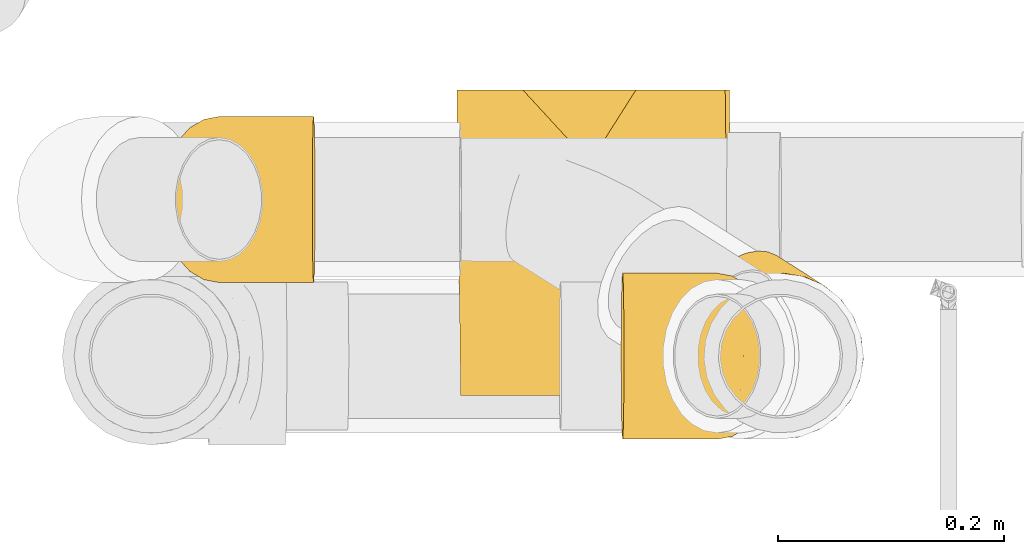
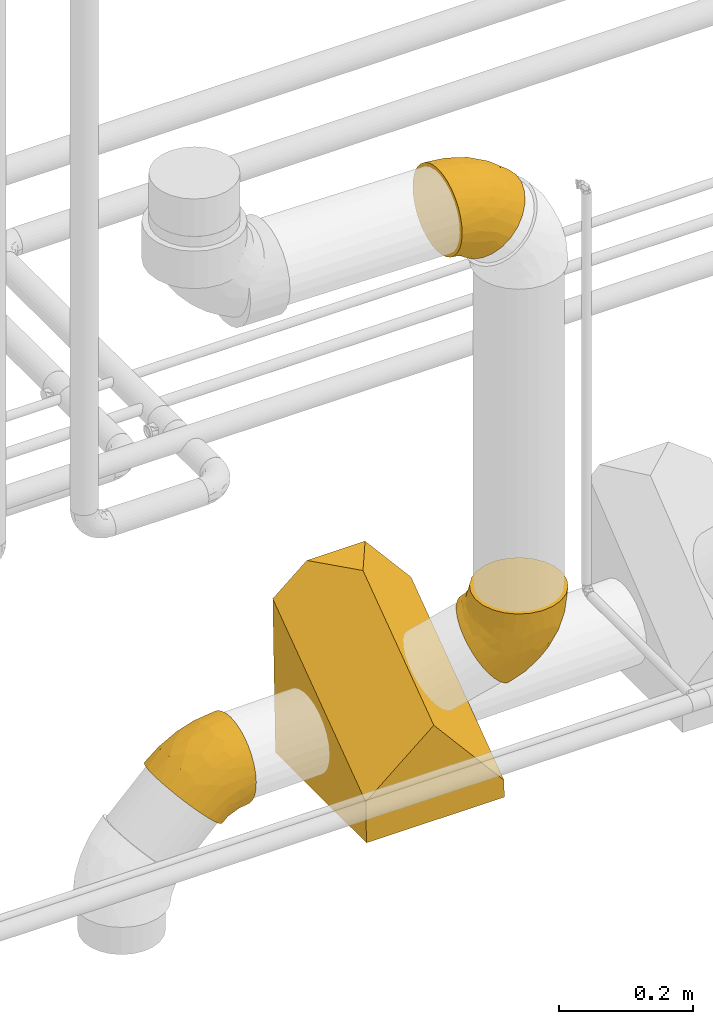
# One storey, part 16 of 156: 4 coverings.
"""IFC2X3 building model written with IfcOpenShell, lengths in millimetres."""

from ifc_helpers import new_model, entity, si_unit, converted_unit, derived_unit, direction, frame, origin_with_axes, place, context, subcontext, project, spatial, open_shell, surface_model, source, transform, mapped, element, save


model = new_model("IFC2X3")

# Units and contexts
model_context = context("Model", 3, precision=0.01, world=frame((0.0, 4.29681676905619e-09, 0.0)), true_north=direction((4.01073788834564e-13, 1.0)))
plan_context = context("Plan", 3, precision=0.01, world=frame((0.0, 4.29681676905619e-09, 0.0)), true_north=direction((4.01073788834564e-13, 1.0)))
body_context = subcontext(model_context, "Body", "Model", "MODEL_VIEW")
ifc_project = project(units=[converted_unit("PLANEANGLEUNIT", "DEGREE", entity("IfcPositiveLengthMeasure", 0.0174532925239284), si_unit("PLANEANGLEUNIT", "RADIAN"), dimensions=[0, 0, 0, 0, 0, 0, 0]), si_unit("AREAUNIT", "SQUARE_METRE"), si_unit("LENGTHUNIT", "METRE", prefix="MILLI"), si_unit("MASSUNIT", "GRAM", prefix="KILO"), si_unit("POWERUNIT", "WATT"), si_unit("PRESSUREUNIT", "PASCAL", prefix="KILO"), si_unit("FORCEUNIT", "NEWTON", prefix="KILO"), si_unit("ELECTRICVOLTAGEUNIT", "VOLT"), si_unit("ELECTRICCURRENTUNIT", "AMPERE"), si_unit("THERMODYNAMICTEMPERATUREUNIT", "DEGREE_CELSIUS"), si_unit("TIMEUNIT", "SECOND"), si_unit("VOLUMEUNIT", "CUBIC_METRE"), derived_unit("LINEARVELOCITYUNIT", [(si_unit("LENGTHUNIT", "METRE"), 1), (si_unit("TIMEUNIT", "SECOND"), -1)]), derived_unit("VOLUMETRICFLOWRATEUNIT", [(si_unit("VOLUMEUNIT", "CUBIC_METRE"), 1), (si_unit("TIMEUNIT", "SECOND"), -1)]), derived_unit("THERMALTRANSMITTANCEUNIT", [(si_unit("POWERUNIT", "WATT"), 1), (si_unit("THERMODYNAMICTEMPERATUREUNIT", "KELVIN"), -1), (si_unit("AREAUNIT", "SQUARE_METRE"), -1)]), derived_unit("SOUNDPRESSUREUNIT", [(si_unit("PRESSUREUNIT", "PASCAL"), 1)])], contexts=[model_context, plan_context])

# Site, building, storey
site_placement = place(None, frame((0.0, -4.29681676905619e-09, 0.0), z_axis=(0.0, 0.0, 1.0), x_axis=(1.0, 0.0, 0.0)))
site = spatial("IfcSite", under=ifc_project, at=site_placement, CompositionType="ELEMENT")
building_placement = place(site_placement, frame((0.0, 4.29681676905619e-09, 0.0), z_axis=(0.0, 0.0, 1.0), x_axis=(1.0, 0.0, 0.0)))
building = spatial("IfcBuilding", under=site, at=building_placement, Name="mc-building", CompositionType="ELEMENT")
storey_placement = place(building_placement, frame((0.0, 0.0, 205200.0), z_axis=(0.0, 0.0, 1.0), x_axis=(1.0, 0.0, 0.0)))
storey = spatial("IfcBuildingStorey", under=building, at=storey_placement, Name="Nivå D + 1,2 m", CompositionType="ELEMENT", Elevation=205200.0)

# Coverings
shared_shape_1 = source(origin_with_axes(), body_context, "Body", "SurfaceModel", [
    surface_model("IfcShellBasedSurfaceModel", [(77.67136, -9.90601, 40.82479), (63.57376, 4.66947, 61.10815), (71.31719, -3.33645, 51.96498), (77.66351, -9.89789, -40.8417), (71.30695, -3.32586, -51.97971), (63.56201, 4.68162, -61.11944), (86.27864, -18.80506, 0.0), (85.29628, -17.78941, -14.34271), (82.38721, -14.78172, -28.13327), (-48.94265, 70.99555, -19.0232), (-48.94265, 63.65287, 36.75), (-48.94265, 73.5, 0.0), (-48.94265, 51.97235, -51.97235), (-48.94265, 63.65287, -36.75), (-48.94265, 36.75, -63.65287), (-48.94265, 19.0232, 70.99555), (-48.94265, 19.0232, -70.99555), (-48.94265, 51.97235, 51.97235), (-48.94265, 70.99555, 19.0232), (-48.94265, 36.75, 63.65287), (-48.94265, 0.0, 73.5), (-48.94265, 0.0, -73.5), (-48.94265, -19.0232, -70.99555), (-48.94265, -36.75, -63.65287), (-48.94265, -73.5, 0.0), (-48.94265, -63.65287, -36.75), (-48.94265, -51.97235, -51.97235), (-48.94265, -70.99555, -19.0232), (-48.94265, -36.75, 63.65287), (-48.94265, -19.0232, 70.99555), (-48.94265, -51.97235, 51.97235), (-48.94265, -63.65287, 36.75), (-48.94265, -70.99555, 19.0232), (54.73855, 13.80419, 67.90265), (45.151, 23.71673, 72.08701), (4.70339, -11.62811, 70.10924), (-11.79268, -69.91917, 0.0), (5.49729, -63.67267, 16.90402), (23.98939, -59.30853, 0.0), (51.8517, -41.92744, 20.49374), (30.21048, -15.2409, 63.75919), (-11.2399, -55.17777, 43.60654), (-14.51415, -63.91313, 30.01768), (-7.97177, -31.06005, 63.80632), (21.91668, -51.8428, 32.74298), (18.24826, -45.94476, 43.88746), (16.17402, -36.00127, 54.81106), (-17.94012, -44.84126, 55.90712), (-18.27528, 3.95081, 73.5), (51.44489, -36.00841, 33.62416), (57.08605, -42.05878, 0.0), (85.29851, -17.7917, 14.32665), (45.36569, -18.91098, 55.89531), (45.06717, -31.0472, 45.44987), (10.38942, 15.54525, 73.5), (35.17959, 34.02616, 73.5), (82.39223, -14.78691, 28.11586), (-40.03707, 75.23289, 0.0), (-28.51806, 16.12231, 72.12469), (-0.94777, 71.37818, 51.97971), (-15.87647, 65.98218, 46.63532), (-7.58177, 59.02662, 56.92743), (-2.00146, 33.0691, 70.33875), (-27.08612, 30.7357, 67.90515), (-21.05326, 52.04599, 56.82324), (-35.94649, 45.85958, 58.31147), (-35.39677, 73.1543, 17.95287), (-22.84292, 77.57323, 21.34079), (-27.5856, 69.03523, 34.6544), (-36.04096, 59.65346, 44.74396), (-38.56147, 67.11684, 32.08756), (-14.93711, 85.84173, 14.34271), (-23.52547, 81.91158, 0.0), (-7.30433, 77.95021, 40.8417), (-17.58859, 74.38043, 34.6544), (6.79717, 63.3707, 61.11944), (-9.10568, 45.30053, 64.38139), (15.63274, 54.23562, 67.90986), (25.21934, 44.32404, 72.0902), (-12.02803, 82.83404, 28.13327), (-31.13148, 76.96578, 0.0), (-15.91946, 86.85738, 0.0), (-38.56264, 67.1147, -32.09143), (-27.58977, 69.0435, -34.63712), (-36.03446, 59.65483, -44.74397), (-35.38819, 73.1593, -17.94305), (-14.93933, 85.84402, -14.32665), (-22.84535, 77.57773, -21.32394), (-17.59418, 74.3878, -34.63713), (-9.11017, 45.31749, -64.37197), (-21.05673, 52.06175, -56.81019), (-7.58965, 59.04174, -56.91358), (-18.27528, 3.95081, -73.5), (-27.10297, 30.73162, -67.90515), (-35.94319, 45.86015, -58.31147), (-15.88314, 65.99341, -46.61941), (-12.03305, 82.83923, -28.11586), (-2.03304, 33.07136, -70.33364), (15.62063, 54.24813, -67.90265), (-7.31218, 77.95833, -40.82479), (-0.95801, 71.38877, -51.96498), (6.78541, 63.38285, -61.10815), (-16.70406, 19.54901, -72.04548), (25.20818, 44.33559, -72.08701), (35.17959, 34.02616, -73.5), (10.38942, 15.54525, -73.5), (45.35403, -18.90037, -55.90839), (-7.94621, -31.04339, -63.81171), (30.19869, -15.22856, -63.7687), (16.16178, -35.99047, -54.82417), (45.13984, 23.72827, -72.0902), (54.72644, 13.81671, -67.90986), (4.70339, -11.62811, -70.10924), (-17.95677, -44.83118, -55.91817), (21.91538, -51.83425, -32.75989), (-14.52029, -63.91271, -30.0211), (-11.25725, -55.18108, -43.60708), (51.84878, -41.92361, -20.51024), (5.49642, -63.67062, -16.91336), (45.05793, -31.03832, -45.46564), (17.49431, -45.0956, -45.288), (56.91846, -32.31182, -33.71897)], [open_shell([[[0, 1, 2]], [[3, 4, 5]], [[6, 7, 8]], [[9, 10, 11]], [[12, 9, 13]], [[10, 12, 14]], [[9, 12, 10]], [[15, 14, 16]], [[10, 15, 17]], [[10, 18, 11]], [[17, 15, 19]], [[14, 15, 10]], [[16, 20, 15]], [[16, 21, 20]], [[21, 22, 23]], [[24, 21, 23]], [[24, 23, 25]], [[25, 23, 26]], [[24, 25, 27]], [[20, 28, 29]], [[30, 28, 20]], [[31, 24, 32]], [[24, 31, 30]], [[21, 24, 30]], [[30, 20, 21]], [[33, 34, 35]], [[32, 24, 36]], [[37, 36, 38]], [[38, 39, 37]], [[1, 33, 40]], [[41, 31, 42]], [[29, 28, 43]], [[39, 44, 37]], [[45, 46, 41]], [[46, 43, 47]], [[29, 48, 20]], [[48, 29, 35]], [[31, 41, 30]], [[33, 35, 40]], [[40, 43, 46]], [[49, 44, 39]], [[38, 50, 39]], [[50, 51, 39]], [[52, 2, 1]], [[49, 53, 45]], [[49, 0, 53]], [[51, 50, 6]], [[47, 41, 46]], [[45, 41, 44]], [[52, 53, 2]], [[53, 52, 46]], [[54, 34, 55]], [[35, 54, 48]], [[44, 41, 42]], [[32, 37, 42]], [[34, 54, 35]], [[52, 40, 46]], [[47, 28, 30]], [[29, 43, 35]], [[0, 2, 53]], [[32, 36, 37]], [[40, 52, 1]], [[39, 51, 56]], [[32, 42, 31]], [[43, 40, 35]], [[44, 42, 37]], [[28, 47, 43]], [[41, 47, 30]], [[39, 56, 49]], [[0, 49, 56]], [[49, 45, 44]], [[46, 45, 53]], [[57, 11, 18]], [[20, 48, 58]], [[59, 60, 61]], [[62, 63, 58]], [[61, 60, 64]], [[63, 64, 65]], [[57, 18, 66]], [[58, 63, 15]], [[67, 66, 68]], [[10, 17, 69]], [[69, 68, 70]], [[10, 69, 70]], [[71, 72, 67]], [[70, 18, 10]], [[48, 54, 62]], [[68, 66, 70]], [[73, 74, 60]], [[75, 76, 77]], [[78, 77, 62]], [[78, 54, 55]], [[69, 60, 68]], [[76, 75, 61]], [[60, 74, 68]], [[19, 15, 63]], [[73, 79, 74]], [[17, 19, 65]], [[80, 66, 67]], [[66, 80, 57]], [[67, 74, 79]], [[68, 74, 67]], [[79, 71, 67]], [[59, 73, 60]], [[65, 69, 17]], [[62, 54, 78]], [[60, 69, 64]], [[63, 62, 76]], [[18, 70, 66]], [[63, 65, 19]], [[69, 65, 64]], [[76, 61, 64]], [[59, 61, 75]], [[63, 76, 64]], [[77, 76, 62]], [[72, 71, 81]], [[72, 80, 67]], [[20, 58, 15]], [[62, 58, 48]], [[82, 83, 84]], [[9, 57, 85]], [[12, 13, 84]], [[72, 81, 86]], [[87, 88, 83]], [[89, 90, 91]], [[21, 16, 92]], [[93, 14, 94]], [[89, 93, 90]], [[9, 85, 82]], [[94, 14, 12]], [[16, 14, 93]], [[84, 95, 90]], [[85, 87, 83]], [[86, 96, 87]], [[84, 94, 12]], [[90, 95, 91]], [[97, 89, 98]], [[88, 87, 96]], [[88, 96, 99]], [[99, 100, 95]], [[82, 84, 13]], [[95, 83, 88]], [[91, 100, 101]], [[93, 102, 16]], [[98, 103, 97]], [[103, 104, 105]], [[85, 80, 87]], [[95, 88, 99]], [[105, 97, 103]], [[102, 105, 92]], [[105, 102, 97]], [[95, 84, 83]], [[86, 87, 72]], [[94, 84, 90]], [[102, 93, 97]], [[93, 94, 90]], [[9, 82, 13]], [[85, 83, 82]], [[100, 91, 95]], [[101, 98, 89]], [[89, 91, 101]], [[93, 89, 97]], [[87, 80, 72]], [[57, 9, 11]], [[57, 80, 85]], [[16, 102, 92]], [[5, 4, 106]], [[22, 107, 23]], [[22, 21, 92]], [[108, 106, 109]], [[110, 111, 112]], [[107, 112, 108]], [[113, 107, 109]], [[112, 107, 22]], [[24, 27, 36]], [[114, 115, 116]], [[114, 117, 118]], [[38, 36, 118]], [[116, 25, 26]], [[116, 115, 25]], [[119, 120, 109]], [[113, 23, 107]], [[112, 92, 105]], [[113, 116, 26]], [[105, 104, 110]], [[114, 118, 115]], [[5, 106, 108]], [[36, 27, 118]], [[112, 111, 108]], [[112, 22, 92]], [[115, 27, 25]], [[4, 3, 119]], [[117, 121, 8]], [[109, 106, 119]], [[120, 114, 116]], [[38, 118, 117]], [[7, 6, 50]], [[38, 117, 50]], [[7, 50, 117]], [[114, 119, 121]], [[3, 8, 121]], [[7, 117, 8]], [[107, 108, 109]], [[112, 105, 110]], [[119, 106, 4]], [[108, 111, 5]], [[27, 115, 118]], [[113, 109, 120]], [[23, 113, 26]], [[114, 121, 117]], [[3, 121, 119]], [[114, 120, 119]], [[113, 120, 116]], [[59, 75, 77]], [[55, 34, 33]], [[0, 33, 1]], [[56, 51, 0]], [[71, 86, 81]], [[59, 79, 73]], [[100, 99, 96]], [[86, 71, 96]], [[33, 0, 78]], [[78, 55, 33]], [[71, 79, 59]], [[78, 71, 77]], [[71, 59, 77]], [[71, 8, 96]], [[100, 96, 103]], [[101, 100, 98]], [[98, 100, 103]], [[96, 8, 103]], [[110, 104, 103]], [[0, 71, 78]], [[71, 0, 8]], [[8, 0, 51]], [[3, 5, 111]], [[8, 111, 110]], [[3, 111, 8]], [[103, 8, 110]], [[51, 6, 8]]])]),
])
covering_1_placement = place(storey_placement, frame((324556.72338, 462724.75736, 4161.58312), z_axis=(0.0, 1.0, 0.0), x_axis=(0.707106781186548, 0.0, 0.707106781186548)))
element("IfcCovering", 1, at=covering_1_placement, inside=storey, Name="BI17T - Cellegummi 13 mm SPV fett", PredefinedType="INSULATION", context=body_context, shape_type="MappedRepresentation", body=[
    mapped(shared_shape_1, transform((0.0, 0.0, 0.0), scale=1.0)),
])
shared_shape_2 = source(origin_with_axes(), body_context, "Body", "SurfaceModel", [
    surface_model("IfcShellBasedSurfaceModel", [(-18.97013, 90.05107, 28.13327), (-13.44916, 86.09075, 40.8417), (-22.37019, 92.49001, 14.34271), (-22.37279, 92.49187, -14.32665), (-23.51834, 93.31361, 0.0), (24.55077, 58.83251, -72.08701), (13.3592, 66.86049, 67.90986), (24.56381, 58.82315, 72.0902), (3.03237, 74.26816, 61.11944), (-6.01975, 80.76146, 51.97971), (91.38627, 10.88984, 28.11586), (-6.03172, 80.77004, -51.96498), (-18.97599, 90.05527, -28.11586), (3.01863, 74.27802, -61.10815), (-13.45834, 86.09733, -40.82479), (13.34505, 66.87064, -67.90265), (47.84648, 42.12196, -72.0902), (36.20514, 50.47256, -73.5), (36.20514, 50.47256, 73.5), (47.85952, 42.1126, 72.08701), (59.06524, 34.07448, 67.90265), (69.39166, 26.6671, 61.10815), (85.86863, 14.84778, 40.82479), (78.44201, 20.17507, 51.96498), (94.78308, 8.45324, 14.32665), (85.85945, 14.85436, -40.8417), (78.43004, 20.18365, -51.97971), (69.37791, 26.67695, -61.11944), (59.05109, 34.08463, -67.90986), (95.92863, 7.63151, 0.0), (94.78048, 8.4551, -14.34271), (91.38041, 10.89404, -28.13327), (-62.11514, 70.99555, -19.0232), (-62.11514, 63.65287, 36.75), (-62.11514, 73.5, 0.0), (-62.11514, 51.97235, -51.97235), (-62.11514, 63.65287, -36.75), (-62.11514, 36.75, -63.65287), (-62.11514, 19.0232, 70.99555), (-62.11514, 19.0232, -70.99555), (-62.11514, 51.97235, 51.97235), (-62.11514, 70.99555, 19.0232), (-62.11514, 36.75, 63.65287), (-62.11514, 0.0, 73.5), (-62.11514, 0.0, -73.5), (-62.11514, -19.0232, -70.99555), (-62.11514, -36.75, -63.65287), (-62.11514, -73.5, 0.0), (-62.11514, -63.65287, -36.75), (-62.11514, -51.97235, -51.97235), (-62.11514, -70.99555, -19.0232), (-62.11514, -36.75, 63.65287), (-62.11514, -19.0232, 70.99555), (-62.11514, -51.97235, 51.97235), (-62.11514, -63.65287, 36.75), (-62.11514, -70.99555, 19.0232), (57.35817, -22.38087, 33.08374), (45.81664, -38.55867, 16.45229), (72.49251, -15.34171, 20.46285), (-16.42353, -68.05694, 0.0), (-17.60983, -66.98161, 13.87659), (13.64552, -56.56612, 14.5133), (26.71074, -52.0324, 0.0), (20.24028, -39.43327, 43.37547), (-17.26043, -40.79538, 56.59365), (-23.40306, -55.18365, 43.30692), (33.21154, 11.87651, 69.50674), (9.4018, 23.3971, 73.5), (48.15442, -20.09883, 45.04901), (27.65835, -44.48904, 29.61227), (-31.39218, -10.41085, 72.16316), (2.05693, -4.00689, 70.86164), (-24.49169, 5.99793, 73.5), (-24.31157, -25.97061, 66.75629), (19.47491, -16.21517, 62.52358), (22.85535, -27.44805, 53.8296), (49.25648, -6.63683, 55.31849), (64.87345, -26.32327, 0.0), (46.19544, 6.46354, 63.71732), (-9.04405, -60.95189, 26.55897), (-19.95255, 72.5991, 46.63532), (-28.14736, 54.82853, 56.82324), (-9.37497, 57.54022, 62.61892), (-35.45023, 17.65965, 72.10046), (-0.32138, 42.78972, 70.33875), (-17.84212, 42.89161, 66.54142), (-15.94289, 26.93565, 71.68917), (-30.46274, 65.16706, 46.62449), (-32.3219, 73.36783, 34.6544), (-45.46035, 46.58494, 58.31147), (-33.74609, 32.56614, 67.90515), (-36.06644, 77.12659, 22.48464), (-28.83541, 82.79608, 21.34079), (-44.5059, 73.97067, 19.80285), (-40.42245, 78.74273, 0.0), (-51.03369, 76.17819, 0.0), (-45.12495, 60.65777, 44.74396), (-32.1536, 85.87025, 0.0), (-52.85593, 68.71874, 28.12723), (-42.61126, 68.96783, 33.47894), (-53.28866, 72.80641, 14.74984), (-22.99585, 80.67477, 34.65411), (-30.46791, 65.17879, -46.60895), (-19.96055, 72.60944, -46.61941), (-28.15269, 54.84369, -56.81019), (-44.50668, 73.97276, -19.79488), (-36.88222, 79.1987, -13.90211), (-52.85395, 68.71909, -28.12723), (-42.6027, 68.97089, -33.4792), (-45.13237, 60.65568, -44.74397), (-53.2897, 72.80578, -14.75195), (-0.34887, 42.78948, -70.33364), (-16.95921, 36.81276, -68.94695), (-11.39457, 54.20459, -63.43205), (-33.0141, 18.34632, -72.09527), (-32.32612, 73.37609, -34.63712), (-33.72981, 32.57136, -67.90515), (-12.49765, 24.34535, -72.45437), (-45.45774, 46.58552, -58.31147), (9.4018, 23.3971, -73.5), (-23.00143, 80.68188, -34.6373), (-10.37814, 67.78461, -56.69103), (-28.83819, 82.80044, -21.32394), (-24.49169, 5.99793, -73.5), (-21.65506, -54.84048, -43.23998), (-7.26612, -60.44591, -26.50444), (15.50505, 11.00324, -72.2259), (36.5775, 15.45374, -69.64194), (12.11355, -5.91181, -68.73806), (-15.34026, -7.06926, -71.88059), (43.43753, -33.26307, -32.5119), (35.95766, -44.73049, -16.71427), (-23.12537, -26.72572, -66.27215), (35.26471, -3.03728, -63.68391), (-26.87725, -68.766, -14.72466), (13.64397, -45.40896, -39.72094), (-24.60707, -42.69237, -56.56314), (16.07779, -31.32476, -53.66566), (49.50045, -6.38237, -55.34557), (6.15162, -59.79076, -13.49644), (68.03054, -19.64037, -20.3787), (40.90076, -25.07121, -45.47517), (70.0198, -10.48976, -33.52017), (7.33348, -22.41268, -62.70595), (65.34056, -4.16536, -45.60898)], [open_shell([[[0, 1, 2]], [[2, 3, 4]], [[5, 2, 1]], [[6, 7, 8]], [[8, 7, 1]], [[1, 9, 8]], [[5, 1, 10]], [[11, 12, 13]], [[11, 14, 12]], [[3, 2, 12]], [[15, 13, 5]], [[13, 12, 2]], [[13, 2, 5]], [[5, 16, 17]], [[1, 7, 18]], [[18, 19, 20]], [[20, 21, 18]], [[18, 21, 22]], [[10, 1, 22]], [[16, 5, 10]], [[21, 23, 22]], [[16, 10, 24]], [[25, 26, 27]], [[28, 16, 27]], [[29, 27, 16]], [[29, 30, 31]], [[31, 25, 29]], [[29, 25, 27]], [[16, 24, 29]], [[1, 18, 22]], [[32, 33, 34]], [[35, 32, 36]], [[33, 35, 37]], [[32, 35, 33]], [[38, 37, 39]], [[33, 38, 40]], [[33, 41, 34]], [[40, 38, 42]], [[37, 38, 33]], [[39, 43, 38]], [[39, 44, 43]], [[44, 45, 46]], [[47, 44, 46]], [[47, 46, 48]], [[48, 46, 49]], [[47, 48, 50]], [[43, 51, 52]], [[53, 51, 43]], [[54, 47, 55]], [[47, 54, 53]], [[44, 47, 53]], [[53, 43, 44]], [[56, 57, 58]], [[47, 59, 60]], [[61, 62, 57]], [[63, 64, 65]], [[66, 19, 67]], [[22, 23, 68]], [[69, 57, 56]], [[70, 71, 72]], [[59, 61, 60]], [[73, 74, 71]], [[70, 43, 52]], [[73, 52, 51]], [[64, 51, 53]], [[74, 75, 76]], [[73, 71, 70]], [[61, 59, 62]], [[77, 57, 62]], [[66, 20, 19]], [[66, 78, 20]], [[68, 23, 76]], [[10, 56, 58]], [[24, 77, 29]], [[63, 65, 79]], [[54, 79, 65]], [[64, 53, 65]], [[56, 63, 69]], [[67, 19, 18]], [[66, 67, 71]], [[65, 53, 54]], [[55, 79, 54]], [[67, 72, 71]], [[76, 23, 21]], [[78, 74, 76]], [[71, 74, 66]], [[76, 21, 78]], [[75, 64, 63]], [[58, 77, 24]], [[22, 56, 10]], [[51, 64, 73]], [[56, 68, 63]], [[74, 73, 64]], [[63, 79, 69]], [[61, 69, 79]], [[69, 61, 57]], [[61, 79, 60]], [[79, 55, 60]], [[47, 60, 55]], [[20, 78, 21]], [[74, 78, 66]], [[64, 75, 74]], [[68, 75, 63]], [[77, 58, 57]], [[10, 58, 24]], [[43, 70, 72]], [[73, 70, 52]], [[22, 68, 56]], [[75, 68, 76]], [[80, 81, 82]], [[43, 72, 83]], [[9, 80, 82]], [[84, 85, 86]], [[87, 80, 88]], [[89, 90, 81]], [[91, 88, 92]], [[93, 94, 95]], [[96, 33, 40]], [[2, 4, 97]], [[40, 89, 96]], [[98, 99, 93]], [[41, 98, 100]], [[2, 97, 92]], [[84, 86, 67]], [[90, 89, 42]], [[0, 101, 1]], [[82, 84, 6]], [[7, 6, 84]], [[7, 67, 18]], [[82, 85, 84]], [[38, 90, 42]], [[80, 87, 81]], [[82, 6, 8]], [[101, 0, 92]], [[40, 42, 89]], [[93, 91, 94]], [[80, 101, 88]], [[91, 97, 94]], [[86, 83, 72]], [[0, 2, 92]], [[9, 1, 80]], [[34, 41, 100]], [[84, 67, 7]], [[98, 41, 33]], [[98, 96, 99]], [[96, 89, 81]], [[96, 98, 33]], [[100, 98, 93]], [[87, 99, 96]], [[91, 99, 88]], [[93, 95, 100]], [[34, 100, 95]], [[88, 101, 92]], [[1, 101, 80]], [[99, 87, 88]], [[96, 81, 87]], [[82, 8, 9]], [[85, 81, 90]], [[81, 85, 82]], [[86, 85, 90]], [[83, 86, 90]], [[67, 86, 72]], [[90, 38, 83]], [[43, 83, 38]], [[91, 92, 97]], [[99, 91, 93]], [[102, 103, 104]], [[105, 94, 106]], [[107, 108, 109]], [[34, 95, 110]], [[36, 32, 107]], [[111, 112, 113]], [[39, 114, 44]], [[103, 102, 115]], [[39, 37, 116]], [[111, 117, 112]], [[118, 37, 35]], [[37, 118, 116]], [[97, 4, 3]], [[117, 111, 119]], [[14, 103, 120]], [[109, 118, 35]], [[11, 121, 103]], [[15, 111, 113]], [[106, 97, 122]], [[14, 11, 103]], [[104, 118, 109]], [[35, 36, 109]], [[120, 115, 122]], [[12, 14, 120]], [[112, 114, 116]], [[111, 15, 5]], [[5, 17, 119]], [[121, 13, 113]], [[97, 3, 122]], [[119, 111, 5]], [[117, 119, 123]], [[115, 105, 106]], [[36, 107, 109]], [[122, 3, 12]], [[110, 105, 107]], [[95, 94, 105]], [[116, 118, 104]], [[110, 107, 32]], [[107, 105, 108]], [[105, 115, 108]], [[102, 108, 115]], [[34, 110, 32]], [[95, 105, 110]], [[115, 120, 103]], [[12, 120, 122]], [[104, 109, 102]], [[108, 102, 109]], [[114, 117, 123]], [[117, 114, 112]], [[44, 114, 123]], [[39, 116, 114]], [[116, 104, 112]], [[113, 112, 104]], [[121, 104, 103]], [[15, 113, 13]], [[13, 121, 11]], [[104, 121, 113]], [[97, 106, 94]], [[115, 106, 122]], [[48, 124, 125]], [[126, 127, 128]], [[44, 123, 129]], [[125, 130, 131]], [[46, 45, 132]], [[123, 126, 129]], [[28, 27, 133]], [[132, 45, 129]], [[50, 134, 47]], [[126, 128, 129]], [[50, 125, 134]], [[125, 124, 135]], [[136, 46, 132]], [[125, 50, 48]], [[137, 133, 138]], [[139, 134, 125]], [[127, 126, 16]], [[133, 127, 28]], [[17, 16, 126]], [[31, 30, 140]], [[128, 127, 133]], [[136, 124, 49]], [[131, 77, 62]], [[127, 16, 28]], [[137, 141, 135]], [[27, 26, 138]], [[138, 141, 137]], [[140, 142, 31]], [[132, 128, 143]], [[131, 140, 77]], [[30, 29, 77]], [[130, 140, 131]], [[48, 49, 124]], [[141, 142, 130]], [[26, 25, 144]], [[141, 144, 142]], [[30, 77, 140]], [[138, 133, 27]], [[139, 59, 134]], [[119, 126, 123]], [[126, 119, 17]], [[129, 128, 132]], [[44, 129, 45]], [[143, 128, 133]], [[136, 137, 124]], [[133, 137, 143]], [[136, 143, 137]], [[46, 136, 49]], [[143, 136, 132]], [[138, 26, 144]], [[135, 141, 130]], [[125, 135, 130]], [[137, 135, 124]], [[31, 142, 25]], [[138, 144, 141]], [[130, 142, 140]], [[25, 142, 144]], [[139, 125, 131]], [[47, 134, 59]], [[131, 62, 139]], [[59, 139, 62]]])]),
])
covering_2_placement = place(storey_placement, frame((325018.86668, 462586.08797, 4351.56729000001), z_axis=(0.534985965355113, 0.844860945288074, 0.0), x_axis=(0.0, 0.0, -1.0)))
element("IfcCovering", 2, at=covering_2_placement, inside=storey, Name="BI17T - Cellegummi 13 mm SPV fett", PredefinedType="INSULATION", context=body_context, shape_type="MappedRepresentation", body=[
    mapped(shared_shape_2, transform((0.0, 0.0, 0.0), scale=1.0)),
])
shared_shape_3 = source(origin_with_axes(), body_context, "Body", "SurfaceModel", [
    surface_model("IfcShellBasedSurfaceModel", [(-64.4858, -86.88465, 188.09183), (-64.4858, -86.88465, -152.04002), (54.06027, -163.39764, -93.8253), (54.06027, -163.39764, 165.24796), (-5.24081, -125.12304, 217.18542), (172.34261, -48.7073, 159.04469), (94.90349, -123.79473, 216.17478), (172.34261, -48.7073, -181.08717), (172.34261, 139.80357, 15.61665), (172.34261, -24.10187, -199.80815), (-64.4858, 136.66229, 18.00669), (-64.4858, -27.24315, -197.41811)], [open_shell([[[0, 1, 2]], [[0, 3, 4]], [[3, 0, 2]], [[3, 2, 5]], [[3, 5, 6]], [[5, 2, 7]], [[5, 7, 8]], [[9, 8, 7]], [[6, 0, 4]], [[0, 6, 5]], [[5, 8, 10]], [[5, 10, 0]], [[4, 3, 6]], [[2, 1, 7]], [[7, 11, 9]], [[11, 7, 1]], [[8, 9, 11]], [[11, 10, 8]], [[1, 0, 10]], [[10, 11, 1]]])]),
])
covering_3_placement = place(storey_placement, frame((324799.87709, 462724.75736, 4165.63569), z_axis=(-0.0100899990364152, 0.795836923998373, 0.605426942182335), x_axis=(0.999861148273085, -1.89439439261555e-07, 0.0166638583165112)))
element("IfcCovering", 3, at=covering_3_placement, inside=storey, Name="BI17T - Cellegummi 13 mm SPV fett", PredefinedType="INSULATION", context=body_context, shape_type="MappedRepresentation", body=[
    mapped(shared_shape_3, transform((0.0, 0.0, 0.0), scale=1.0)),
])
shared_shape_4 = source(origin_with_axes(), body_context, "Body", "SurfaceModel", [
    surface_model("IfcShellBasedSurfaceModel", [(15.63274, 54.23562, 67.90986), (25.21934, 44.32404, 72.0902), (6.79717, 63.3707, 61.11944), (63.57376, 4.66947, 61.10815), (77.67136, -9.90601, 40.82479), (71.31719, -3.33645, 51.96498), (35.17959, 34.02616, 73.5), (-48.94265, 70.99555, -19.0232), (-48.94265, 63.65287, 36.75), (-48.94265, 73.5, 0.0), (-48.94265, 51.97235, -51.97235), (-48.94265, 63.65287, -36.75), (-48.94265, 36.75, -63.65287), (-48.94265, 19.0232, 70.99555), (-48.94265, 19.0232, -70.99555), (-48.94265, 51.97235, 51.97235), (-48.94265, 70.99555, 19.0232), (-48.94265, 36.75, 63.65287), (-48.94265, 0.0, 73.5), (-48.94265, 0.0, -73.5), (-48.94265, -19.0232, -70.99555), (-48.94265, -36.75, -63.65287), (-48.94265, -73.5, 0.0), (-48.94265, -63.65287, -36.75), (-48.94265, -51.97235, -51.97235), (-48.94265, -70.99555, -19.0232), (-48.94265, -36.75, 63.65287), (-48.94265, -19.0232, 70.99555), (-48.94265, -51.97235, 51.97235), (-48.94265, -63.65287, 36.75), (-48.94265, -70.99555, 19.0232), (54.73855, 13.80419, 67.90265), (45.151, 23.71673, 72.08701), (4.70339, -11.62811, 70.10924), (-11.79268, -69.91917, 0.0), (5.49729, -63.67267, 16.90402), (23.98939, -59.30853, 0.0), (51.8517, -41.92744, 20.49374), (30.21048, -15.2409, 63.75919), (-11.2399, -55.17777, 43.60654), (-14.51415, -63.91313, 30.01768), (-7.97177, -31.06005, 63.80632), (21.91668, -51.8428, 32.74298), (18.24826, -45.94476, 43.88746), (16.17402, -36.00127, 54.81106), (-17.94012, -44.84126, 55.90712), (-18.27528, 3.95081, 73.5), (51.44489, -36.00841, 33.62416), (57.08605, -42.05878, 0.0), (85.29851, -17.7917, 14.32665), (45.36569, -18.91098, 55.89531), (45.06717, -31.0472, 45.44987), (86.27864, -18.80506, 0.0), (10.38942, 15.54525, 73.5), (82.39223, -14.78691, 28.11586), (-40.03707, 75.23289, 0.0), (-28.51806, 16.12231, 72.12469), (-0.94777, 71.37818, 51.97971), (-15.87647, 65.98218, 46.63532), (-7.58177, 59.02662, 56.92743), (-2.00146, 33.0691, 70.33875), (-27.08612, 30.7357, 67.90515), (-21.05326, 52.04599, 56.82324), (-35.94649, 45.85958, 58.31147), (-35.39677, 73.1543, 17.95287), (-22.84292, 77.57323, 21.34079), (-27.5856, 69.03523, 34.6544), (-36.04096, 59.65346, 44.74396), (-38.56147, 67.11684, 32.08756), (-14.93711, 85.84173, 14.34271), (-23.52547, 81.91158, 0.0), (-7.30433, 77.95021, 40.8417), (-17.58859, 74.38043, 34.6544), (-9.10568, 45.30053, 64.38139), (-12.02803, 82.83404, 28.13327), (-31.13148, 76.96578, 0.0), (-15.91946, 86.85738, 0.0), (-38.56264, 67.1147, -32.09143), (-27.58977, 69.0435, -34.63712), (-36.03446, 59.65483, -44.74397), (-35.38819, 73.1593, -17.94305), (-14.93933, 85.84402, -14.32665), (-22.84535, 77.57773, -21.32394), (-17.59418, 74.3878, -34.63713), (-9.11017, 45.31749, -64.37197), (-21.05673, 52.06175, -56.81019), (-7.58965, 59.04174, -56.91358), (-18.27528, 3.95081, -73.5), (-27.10297, 30.73162, -67.90515), (-35.94319, 45.86015, -58.31147), (-15.88314, 65.99341, -46.61941), (-12.03305, 82.83923, -28.11586), (-2.03304, 33.07136, -70.33364), (15.62063, 54.24813, -67.90265), (-7.31218, 77.95833, -40.82479), (-0.95801, 71.38877, -51.96498), (6.78541, 63.38285, -61.10815), (-16.70406, 19.54901, -72.04548), (25.20818, 44.33559, -72.08701), (35.17959, 34.02616, -73.5), (10.38942, 15.54525, -73.5), (63.56201, 4.68162, -61.11944), (71.30695, -3.32586, -51.97971), (45.35403, -18.90037, -55.90839), (-7.94621, -31.04339, -63.81171), (30.19869, -15.22856, -63.7687), (16.16178, -35.99047, -54.82417), (45.13984, 23.72827, -72.0902), (54.72644, 13.81671, -67.90986), (4.70339, -11.62811, -70.10924), (-17.95677, -44.83118, -55.91817), (21.91538, -51.83425, -32.75989), (-14.52029, -63.91271, -30.0211), (-11.25725, -55.18108, -43.60708), (51.84878, -41.92361, -20.51024), (5.49642, -63.67062, -16.91336), (45.05793, -31.03832, -45.46564), (17.49431, -45.0956, -45.288), (77.66351, -9.89789, -40.8417), (56.91846, -32.31182, -33.71897), (82.38721, -14.78172, -28.13327), (85.29628, -17.78941, -14.34271)], [open_shell([[[0, 1, 2]], [[3, 4, 1]], [[4, 3, 5]], [[1, 6, 3]], [[7, 8, 9]], [[10, 7, 11]], [[8, 10, 12]], [[7, 10, 8]], [[13, 12, 14]], [[8, 13, 15]], [[8, 16, 9]], [[15, 13, 17]], [[12, 13, 8]], [[14, 18, 13]], [[14, 19, 18]], [[19, 20, 21]], [[22, 19, 21]], [[22, 21, 23]], [[23, 21, 24]], [[22, 23, 25]], [[18, 26, 27]], [[28, 26, 18]], [[29, 22, 30]], [[22, 29, 28]], [[19, 22, 28]], [[28, 18, 19]], [[31, 32, 33]], [[30, 22, 34]], [[35, 34, 36]], [[36, 37, 35]], [[3, 31, 38]], [[39, 29, 40]], [[27, 26, 41]], [[37, 42, 35]], [[43, 44, 39]], [[44, 41, 45]], [[27, 46, 18]], [[46, 27, 33]], [[29, 39, 28]], [[31, 33, 38]], [[38, 41, 44]], [[47, 42, 37]], [[36, 48, 37]], [[48, 49, 37]], [[50, 5, 3]], [[47, 51, 43]], [[47, 4, 51]], [[49, 48, 52]], [[45, 39, 44]], [[43, 39, 42]], [[50, 51, 5]], [[51, 50, 44]], [[53, 32, 6]], [[33, 53, 46]], [[42, 39, 40]], [[30, 35, 40]], [[32, 53, 33]], [[50, 38, 44]], [[45, 26, 28]], [[27, 41, 33]], [[4, 5, 51]], [[30, 34, 35]], [[38, 50, 3]], [[37, 49, 54]], [[30, 40, 29]], [[41, 38, 33]], [[42, 40, 35]], [[26, 45, 41]], [[39, 45, 28]], [[37, 54, 47]], [[4, 47, 54]], [[47, 43, 42]], [[44, 43, 51]], [[55, 9, 16]], [[18, 46, 56]], [[57, 58, 59]], [[60, 61, 56]], [[59, 58, 62]], [[61, 62, 63]], [[55, 16, 64]], [[56, 61, 13]], [[65, 64, 66]], [[8, 15, 67]], [[67, 66, 68]], [[8, 67, 68]], [[69, 70, 65]], [[68, 16, 8]], [[46, 53, 60]], [[66, 64, 68]], [[71, 72, 58]], [[2, 73, 0]], [[1, 0, 60]], [[1, 53, 6]], [[67, 58, 66]], [[73, 2, 59]], [[58, 72, 66]], [[17, 13, 61]], [[71, 74, 72]], [[15, 17, 63]], [[75, 64, 65]], [[64, 75, 55]], [[65, 72, 74]], [[66, 72, 65]], [[74, 69, 65]], [[57, 71, 58]], [[63, 67, 15]], [[60, 53, 1]], [[58, 67, 62]], [[61, 60, 73]], [[16, 68, 64]], [[61, 63, 17]], [[67, 63, 62]], [[73, 59, 62]], [[57, 59, 2]], [[61, 73, 62]], [[0, 73, 60]], [[70, 69, 76]], [[70, 75, 65]], [[18, 56, 13]], [[60, 56, 46]], [[77, 78, 79]], [[7, 55, 80]], [[10, 11, 79]], [[70, 76, 81]], [[82, 83, 78]], [[84, 85, 86]], [[19, 14, 87]], [[88, 12, 89]], [[84, 88, 85]], [[7, 80, 77]], [[89, 12, 10]], [[14, 12, 88]], [[79, 90, 85]], [[80, 82, 78]], [[81, 91, 82]], [[79, 89, 10]], [[85, 90, 86]], [[92, 84, 93]], [[83, 82, 91]], [[83, 91, 94]], [[94, 95, 90]], [[77, 79, 11]], [[90, 78, 83]], [[86, 95, 96]], [[88, 97, 14]], [[93, 98, 92]], [[98, 99, 100]], [[80, 75, 82]], [[90, 83, 94]], [[100, 92, 98]], [[97, 100, 87]], [[100, 97, 92]], [[90, 79, 78]], [[81, 82, 70]], [[89, 79, 85]], [[97, 88, 92]], [[88, 89, 85]], [[7, 77, 11]], [[80, 78, 77]], [[95, 86, 90]], [[96, 93, 84]], [[84, 86, 96]], [[88, 84, 92]], [[82, 75, 70]], [[55, 7, 9]], [[55, 75, 80]], [[14, 97, 87]], [[101, 102, 103]], [[20, 104, 21]], [[20, 19, 87]], [[105, 103, 106]], [[107, 108, 109]], [[104, 109, 105]], [[110, 104, 106]], [[109, 104, 20]], [[22, 25, 34]], [[111, 112, 113]], [[111, 114, 115]], [[36, 34, 115]], [[113, 23, 24]], [[113, 112, 23]], [[116, 117, 106]], [[110, 21, 104]], [[109, 87, 100]], [[110, 113, 24]], [[100, 99, 107]], [[111, 115, 112]], [[101, 103, 105]], [[34, 25, 115]], [[109, 108, 105]], [[109, 20, 87]], [[112, 25, 23]], [[102, 118, 116]], [[114, 119, 120]], [[106, 103, 116]], [[117, 111, 113]], [[36, 115, 114]], [[121, 52, 48]], [[36, 114, 48]], [[121, 48, 114]], [[111, 116, 119]], [[118, 120, 119]], [[121, 114, 120]], [[104, 105, 106]], [[109, 100, 107]], [[116, 103, 102]], [[105, 108, 101]], [[25, 112, 115]], [[110, 106, 117]], [[21, 110, 24]], [[111, 119, 114]], [[118, 119, 116]], [[111, 117, 116]], [[110, 117, 113]], [[6, 32, 31]], [[54, 49, 4]], [[52, 4, 49]], [[95, 94, 91]], [[98, 107, 99]], [[4, 107, 1]], [[102, 101, 108]], [[95, 91, 98]], [[96, 95, 93]], [[93, 95, 98]], [[74, 81, 69]], [[81, 76, 69]], [[74, 71, 1]], [[2, 1, 71]], [[71, 57, 2]], [[74, 107, 98]], [[81, 74, 91]], [[98, 91, 74]], [[74, 1, 107]], [[31, 3, 6]], [[108, 107, 102]], [[102, 107, 118]], [[118, 107, 4]], [[118, 4, 120]], [[121, 120, 4]], [[4, 52, 121]]])]),
])
covering_4_placement = place(storey_placement, frame((324928.06954, 462586.08797, 5144.38557000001), z_axis=(0.0, -1.0, 0.0), x_axis=(-0.707106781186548, 0.0, 0.707106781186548)))
element("IfcCovering", 4, at=covering_4_placement, inside=storey, Name="BI17T - Cellegummi 13 mm SPV fett", PredefinedType="INSULATION", context=body_context, shape_type="MappedRepresentation", body=[
    mapped(shared_shape_4, transform((0.0, 0.0, 0.0), scale=1.0)),
])

save(model, "model.ifc")
